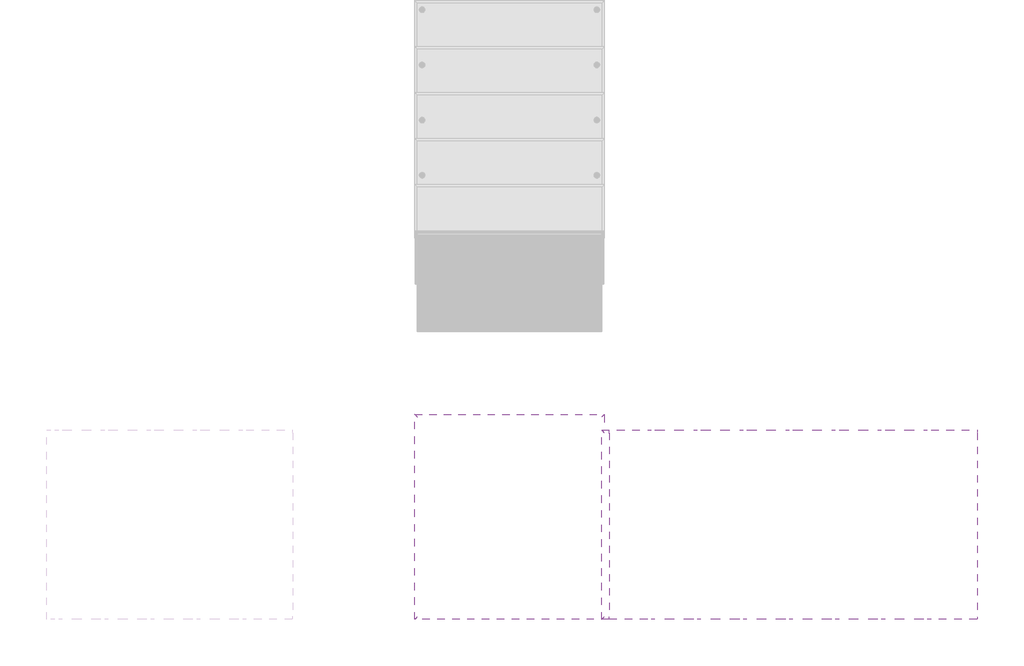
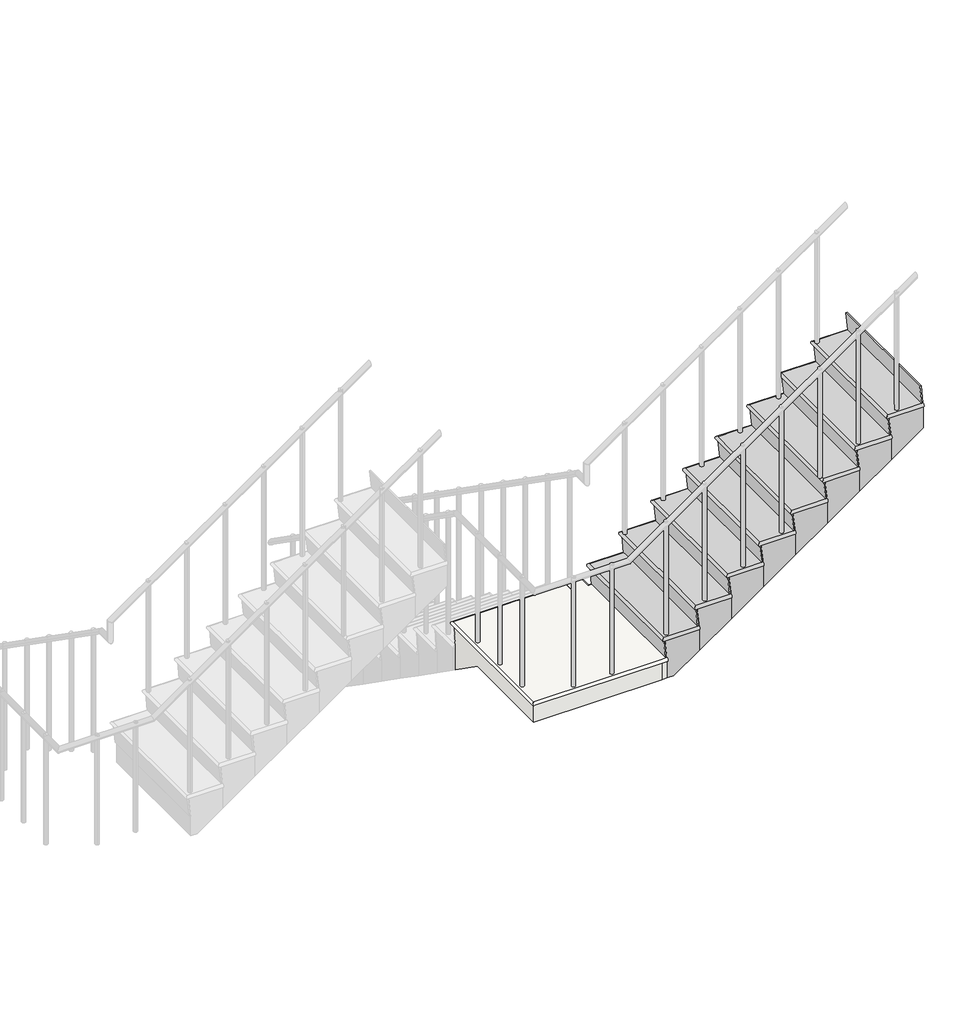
# One storey, part 2 of 6: 1 slab, 1 stair flight.
"""IFC4 building model written with IfcOpenShell, lengths in millimetres."""

import ifcopenshell
import ifcopenshell.guid

model = None  # the IFC model being written
_history = None  # IfcOwnerHistory: only IFC2X3 demands one
_inside = {}  # id of a spatial element -> (the spatial element, [elements in it])
_under = {}  # id of a project, library or spatial element -> (it, [spatial elements below it])
_declared = {}  # id of a project -> (the project, [libraries it declares])
_typed = {}  # id of a type object -> (the type object, [elements of that type])
_made_of = {}  # id of a material, layer set ... -> (it, [elements and type objects made of it])


def new_model(schema):
    """Start an empty IFC model of exactly this schema.

    Asked for "IFC4X3", IfcOpenShell would pick the latest addendum, in which some entities
    have other attributes; the version numbers below select the first issue.
    IFC2X3 requires an IfcOwnerHistory on every rooted entity: one is made here for all.
    """
    global model, _history
    if schema == "IFC4X3":
        model = ifcopenshell.file(schema_version=(4, 3, 0, 0))
    else:
        model = ifcopenshell.file(schema=schema)
    _inside.clear()
    _under.clear()
    _declared.clear()
    _typed.clear()
    _made_of.clear()
    _history = None
    if model.schema == "IFC2X3":
        org = make("IfcOrganization", Name="unknown")
        user = make(
            "IfcPersonAndOrganization",
            ThePerson=make("IfcPerson", FamilyName="unknown"),
            TheOrganization=org,
        )
        app = make(
            "IfcApplication",
            ApplicationDeveloper=org,
            Version="unknown",
            ApplicationFullName="unknown",
            ApplicationIdentifier="unknown",
        )
        _history = make(
            "IfcOwnerHistory",
            OwningUser=user,
            OwningApplication=app,
            ChangeAction="ADDED",
            CreationDate=0,
        )
    return model


def make(cls, **values):
    """One entity of the class cls with the attributes given. An attribute that is None is left unset."""
    return model.create_entity(
        cls, **{name: value for name, value in values.items() if value is not None}
    )


def rooted(cls, **values):
    """An entity with a GlobalId (a new one), such as an element, a storey or a relation."""
    return make(cls, GlobalId=ifcopenshell.guid.new(), OwnerHistory=_history, **values)


def si_unit(unit_type, name, prefix=None):
    """IfcSIUnit, for example si_unit("LENGTHUNIT", "METRE", prefix="MILLI")."""
    return make("IfcSIUnit", UnitType=unit_type, Prefix=prefix, Name=name)


def assignment(units):
    """IfcUnitAssignment: the units of a project."""
    return None if units is None else make("IfcUnitAssignment", Units=units)


def point(xyz):
    """IfcCartesianPoint."""
    return None if xyz is None else make("IfcCartesianPoint", Coordinates=xyz)


def direction(xyz):
    """IfcDirection."""
    return None if xyz is None else make("IfcDirection", DirectionRatios=xyz)


def frame(location, z_axis=None, x_axis=None):
    """IfcAxis2Placement3D, a coordinate frame: its origin and axes. An axis left out is left unset."""
    return make(
        "IfcAxis2Placement3D",
        Location=point(location),
        Axis=direction(z_axis),
        RefDirection=direction(x_axis),
    )


def origin():
    """The frame at (0, 0, 0) with its axes left unset."""
    return frame((0.0, 0.0, 0.0))


def place(relative_to, where):
    """IfcLocalPlacement: puts the frame where relative to a parent placement (None: the world)."""
    return make(
        "IfcLocalPlacement", PlacementRelTo=relative_to, RelativePlacement=where
    )


def context(
    kind, dimensions, precision=None, world=None, true_north=None, identifier=None
):
    """IfcGeometricRepresentationContext, for example the 3D "Model" context."""
    return make(
        "IfcGeometricRepresentationContext",
        ContextIdentifier=identifier,
        ContextType=kind,
        CoordinateSpaceDimension=dimensions,
        Precision=precision,
        WorldCoordinateSystem=world,
        TrueNorth=true_north,
    )


def project(units=None, contexts=None):
    """IfcProject with its units and contexts."""
    return rooted(
        "IfcProject",
        Name="project",
        RepresentationContexts=contexts,
        UnitsInContext=assignment(units),
    )


def spatial(cls, under=None, at=None, **own):
    """A site, building, storey or space (cls), placed at a placement, below another one or the project."""
    s = rooted(cls, ObjectPlacement=at, **own)
    if under is not None:
        _under.setdefault(under.id(), (under, []))[1].append(s)
    return s


def circle_curve(where, radius):
    """IfcCircle in the frame where."""
    return make("IfcCircle", Position=where, Radius=radius)


def ellipse_curve(where, semi_axis1, semi_axis2):
    """IfcEllipse in the frame where."""
    return make(
        "IfcEllipse", Position=where, SemiAxis1=semi_axis1, SemiAxis2=semi_axis2
    )


def faces_of(points, faces, orient=None, outer=None):
    """IfcFace entities. A face is a list of loops; a loop is a list of indices into points, from 0.

    orient and outer hold one flag for each loop. By default every Orientation is true, the
    first loop of a face is its IfcFaceOuterBound and the others are IfcFaceBound.
    """
    made = []
    for i, loops in enumerate(faces):
        bounds = []
        for j, loop in enumerate(loops):
            is_outer = j == 0 if outer is None else outer[i][j]
            bounds.append(
                make(
                    "IfcFaceOuterBound" if is_outer else "IfcFaceBound",
                    Bound=make("IfcPolyLoop", Polygon=[points[k] for k in loop]),
                    Orientation=True if orient is None else orient[i][j],
                )
            )
        made.append(make("IfcFace", Bounds=bounds))
    return made


def faceted_brep(points, faces, orient=None, outer=None, voids=None):
    """IfcFacetedBrep: a solid bounded by flat faces; with voids (closed shells), ...WithVoids."""
    shared = [point(p) for p in points]
    hull = make("IfcClosedShell", CfsFaces=faces_of(shared, faces, orient, outer))
    if voids is None:
        return make("IfcFacetedBrep", Outer=hull)
    return make(
        "IfcFacetedBrepWithVoids",
        Outer=hull,
        Voids=[
            make(cls, CfsFaces=faces_of(shared, fs, o, b)) for cls, fs, o, b in voids
        ],
    )


def shape(context_of_items, identifier, shape_type, items):
    """IfcShapeRepresentation: the items that make up one representation, for example the "Body"."""
    return make(
        "IfcShapeRepresentation",
        ContextOfItems=context_of_items,
        RepresentationIdentifier=identifier,
        RepresentationType=shape_type,
        Items=items,
    )


def made_of(thing, what):
    """Note that an element or type object is made of a material, layer set ...; save() writes the relation."""
    if what is not None:
        _made_of.setdefault(what.id(), (what, []))[1].append(thing)
    return thing


def element(
    cls,
    number,
    at=None,
    inside=None,
    cuts=None,
    type_object=None,
    material=None,
    context=None,
    identifier="Body",
    shape_type=None,
    held_by="IfcProductDefinitionShape",
    body=None,
    shapes=None,
    **own,
):
    """One element of the class cls, such as IfcWall. Its Tag is "e" and its number.

    at: its placement. inside: the storey or other place that contains it. cuts: it is an
    opening in that element (IfcRelVoidsElement). A single representation is given by context,
    identifier, shape_type and body (its items); several are given by shapes. held_by: the class
    of the entity that holds the representations. save() writes the other relations.
    """
    e = rooted(cls, Tag="e%d" % number, ObjectPlacement=at, **own)
    if body is not None:
        shapes = [shape(context, identifier, shape_type, body)]
    if shapes is not None:
        e.Representation = make(held_by, Representations=shapes)
    if inside is not None:
        _inside.setdefault(inside.id(), (inside, []))[1].append(e)
    if cuts is not None:
        rooted(
            "IfcRelVoidsElement", RelatingBuildingElement=cuts, RelatedOpeningElement=e
        )
    if type_object is not None:
        _typed.setdefault(type_object.id(), (type_object, []))[1].append(e)
    return made_of(e, material)


def aggregate(whole, parts):
    """IfcRelAggregates: a whole, such as a stair, and the parts it consists of."""
    return rooted("IfcRelAggregates", RelatingObject=whole, RelatedObjects=parts)


def save(model, path):
    """Write the relations noted so far, then the file.

    IfcRelAggregates (storeys below a building ...), IfcRelContainedInSpatialStructure (elements
    in a storey), IfcRelDefinesByType, IfcRelAssociatesMaterial and IfcRelDeclares: one each for
    every whole, place, type object, material and project.
    """
    for whole, parts in _under.values():
        aggregate(whole, parts)
    for where, things in _inside.values():
        rooted(
            "IfcRelContainedInSpatialStructure",
            RelatedElements=things,
            RelatingStructure=where,
        )
    for kind, things in _typed.values():
        rooted("IfcRelDefinesByType", RelatedObjects=things, RelatingType=kind)
    for what, things in _made_of.values():
        rooted("IfcRelAssociatesMaterial", RelatedObjects=things, RelatingMaterial=what)
    for by, libraries in _declared.values():
        rooted("IfcRelDeclares", RelatingContext=by, RelatedDefinitions=libraries)
    model.write(path)


def plane_surface(at):
    """IfcPlane: the flat surface through the origin of the frame at, square to its z axis."""
    return make("IfcPlane", Position=at)


def cylinder_surface(at, radius):
    """IfcCylindricalSurface: all points at the distance radius from the z axis of the frame at."""
    return make("IfcCylindricalSurface", Position=at, Radius=radius)


def advanced_brep(points, edges, surfaces, faces):
    """IfcAdvancedBrep: a solid bounded by faces that lie on surfaces and meet in shared edges.

    An edge is (start, end): straight between two places in points (the first is 0);
    or (start, end, curve); or (start, end, curve, False) where it runs against its curve.
    A face is (place in surfaces, loops), or (place, loops, False) where it looks against
    its surface's normal. A loop lists edges by number (the first is 1), with a minus sign
    where the edge is run from its end to its start. The first loop is the outer one.
    """
    corners = [point(p) for p in points]
    vertices = [make("IfcVertexPoint", VertexGeometry=c) for c in corners]
    made = []
    for start, end, *more in edges:
        made.append(
            make(
                "IfcEdgeCurve",
                EdgeStart=vertices[start],
                EdgeEnd=vertices[end],
                EdgeGeometry=more[0] if more else make("IfcPolyline", Points=[corners[start], corners[end]]),
                SameSense=more[1] if len(more) > 1 else True,
            )
        )
    hull = []
    for where, loops, *sense in faces:
        bounds = []
        for j, loop in enumerate(loops):
            ring = [make("IfcOrientedEdge", EdgeElement=made[abs(k) - 1], Orientation=k > 0) for k in loop]
            bounds.append(
                make(
                    "IfcFaceOuterBound" if j == 0 else "IfcFaceBound",
                    Bound=make("IfcEdgeLoop", EdgeList=ring),
                    Orientation=True,
                )
            )
        hull.append(make("IfcAdvancedFace", Bounds=bounds, FaceSurface=surfaces[where], SameSense=sense[0] if sense else True))
    return make("IfcAdvancedBrep", Outer=make("IfcClosedShell", CfsFaces=hull))


model = new_model("IFC4")

# Units and contexts
model_context = context("Model", 3, world=origin())
ifc_project = project(units=[si_unit("LENGTHUNIT", "METRE", prefix="MILLI")], contexts=[model_context])

# Site, building, storey
site = spatial("IfcSite", under=ifc_project)
building = spatial("IfcBuilding", under=site)
storey = spatial("IfcBuildingStorey", under=building, Name="樓層 1", Elevation=0.0)

# Slab
placement = place(None, origin())
element("IfcSlab", 1, ObjectType="150mm 厚度", at=placement, inside=storey, context=model_context, shape_type="SolidModel", body=[
    faceted_brep([(-2709.5669097, 476.8888386, 1905.0), (-1709.5669097, 476.8888386, 1905.0), (-1709.5669097, 458.7853903, 1730.0), (-2709.5669097, 458.7853903, 1730.0), (-2709.5669097, -599.0922788, 1905.0), (-1709.5669097, -599.0922788, 1905.0), (-1667.4445789, -599.0922788, 1905.0), (-1667.4445789, 400.9077212, 1905.0), (-1709.5669097, 400.9077212, 1905.0), (-2709.5669097, 158.0144684, 1905.0), (-1709.5669097, 458.7853903, 1544.4603546), (-2709.5669097, 458.7853903, 1544.4603546), (-2709.5669097, 158.0144684, 1755.0), (-2709.5669097, -599.0922788, 1755.0), (-1709.5669097, -599.0922788, 1755.0), (-1667.4445789, -599.0922788, 1755.0), (-1667.4445789, 400.9077212, 1755.0), (-1709.5669097, 400.9077212, 1755.0), (-1709.5669097, 158.0144684, 1755.0)], [[[0, 1, 2, 3]], [[4, 5, 6, 7, 8, 1, 0, 9]], [[3, 2, 10, 11]], [[0, 3, 11, 12, 13, 4, 9]], [[5, 4, 13, 14]], [[6, 5, 14, 15]], [[7, 6, 15, 16]], [[8, 7, 16, 17]], [[1, 8, 17, 18, 10, 2]], [[12, 18, 17, 16, 15, 14, 13]], [[10, 18, 12, 11]]]),
    advanced_brep(
    [(-1669.5135444, -599.0922788, 1925.0), (-1667.4445789, -599.0922788, 1905.0), (-1667.4445789, 400.9077212, 1905.0), (-1669.5135444, 400.9077212, 1925.0), (-1709.5669097, 400.9077212, 1925.0), (-1709.5669097, 485.9077212, 1925.0), (-2709.5669097, 485.9077212, 1925.0), (-2709.5669097, -599.0922788, 1925.0), (-1709.5669097, -599.0922788, 1925.0), (-1669.5135444, -599.0922788, 1905.0), (-1709.5669097, -599.0922788, 1905.0), (-2709.5669097, -599.0922788, 1905.0), (-2709.5669097, 485.9077212, 1905.0), (-1709.5669097, 485.9077212, 1905.0), (-1709.5669097, 400.9077212, 1905.0), (-1669.5135444, 400.9077212, 1905.0), (-1669.5135444, -599.0922788, 1895.0), (-2709.5669097, -599.0922788, 1895.0), (-2709.5669097, 485.9077212, 1895.0), (-1709.5669097, 485.9077212, 1895.0), (-1709.5669097, 400.9077212, 1895.0), (-1669.5135444, 400.9077212, 1895.0)],
    [
        (0, 1),
        (1, 2),
        (2, 3),
        (3, 0),
        (3, 4),
        (4, 5),
        (5, 6),
        (6, 7),
        (7, 8),
        (8, 0),
        (1, 9),
        (9, 10),
        (10, 11),
        (11, 12),
        (12, 13),
        (13, 14),
        (14, 15),
        (15, 2),
        (0, 9),
        (15, 3),
        (0, 16, circle_curve(frame((-1669.5135444, -599.0922788, 1910.0), z_axis=(1.0, 0.0, 0.0), x_axis=(0.0, 1.0, 0.0)), 15.0)),
        (16, 9),
        (7, 17, ellipse_curve(frame((-2709.5669097, -599.0922788, 1910.0), z_axis=(0.7071067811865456, -0.7071067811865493, 0.0), x_axis=(0.7071067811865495, 0.7071067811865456, 0.0)), 21.2132034, 15.0)),
        (17, 16),
        (17, 11),
        (6, 18, ellipse_curve(frame((-2709.5669097, 485.9077212, 1910.0), z_axis=(-0.707106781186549, -0.7071067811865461, 0.0), x_axis=(0.7071067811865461, -0.7071067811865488, 0.0)), 21.2132034, 15.0)),
        (18, 17),
        (18, 12),
        (5, 19, ellipse_curve(frame((-1709.5669097, 485.9077212, 1910.0), z_axis=(-0.7071067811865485, 0.7071067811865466, 0.0), x_axis=(-0.7071067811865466, -0.7071067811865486, 0.0)), 21.2132034, 15.0)),
        (19, 18),
        (19, 13),
        (4, 20, ellipse_curve(frame((-1709.5669097, 400.9077212, 1910.0), z_axis=(-0.7071067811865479, 0.7071067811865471, 0.0), x_axis=(0.7071067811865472, 0.7071067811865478, 0.0)), 21.2132034, 15.0)),
        (20, 19),
        (20, 14),
        (21, 3, circle_curve(frame((-1669.5135444, 400.9077212, 1910.0), z_axis=(1.0, 0.0, 0.0), x_axis=(0.0, -1.0, 0.0)), 15.0)),
        (15, 21),
        (21, 20),
    ],
    [
        plane_surface(frame((-1667.4445789, -599.0922788, 1905.0), z_axis=(0.9946917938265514, 0.0, 0.10289915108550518), x_axis=(0.0, 1.0, 0.0))),
        plane_surface(frame((-1709.5669097, 485.9077212, 1925.0), z_axis=(0.0, 0.0, 1.0), x_axis=(-1.0, 0.0, 0.0))),
        plane_surface(frame((-1709.5669097, 485.9077212, 1905.0), z_axis=(0.0, 0.0, -1.0), x_axis=(1.0, 0.0, 0.0))),
        plane_surface(frame((-1709.5669097, -599.0922788, 1925.0), z_axis=(0.0, -1.0, 0.0), x_axis=(0.0, 0.0, -1.0))),
        plane_surface(frame((-1669.5135444, 400.9077212, 1925.0), z_axis=(0.0, 1.0, 0.0), x_axis=(0.0, 0.0, -1.0))),
        plane_surface(frame((-1669.5135444, -599.0922788, 1925.0), z_axis=(1.0, 0.0, 0.0), x_axis=(0.0, 1.0, 0.0))),
        cylinder_surface(frame((-1669.5135444, -599.0922788, 1910.0), z_axis=(1.0, 0.0, 0.0), x_axis=(0.0, 1.0, 0.0)), 15.0),
        plane_surface(frame((-1669.5135444, -599.0922788, 1895.0), z_axis=(0.0, 1.0, 0.0), x_axis=(-1.0, 0.0, 0.0))),
        cylinder_surface(frame((-2709.5669097, -599.0922788, 1910.0), z_axis=(0.0, -1.0, 0.0), x_axis=(1.0, 0.0, 0.0)), 15.0),
        plane_surface(frame((-2709.5669097, -599.0922788, 1895.0), z_axis=(1.0, 0.0, 0.0), x_axis=(0.0, 1.0, 0.0))),
        cylinder_surface(frame((-2709.5669097, 485.9077212, 1910.0), z_axis=(-1.0, 0.0, 0.0), x_axis=(0.0, -1.0, 0.0)), 15.0),
        plane_surface(frame((-2709.5669097, 485.9077212, 1895.0), z_axis=(0.0, -1.0, 0.0), x_axis=(1.0, 0.0, 0.0))),
        cylinder_surface(frame((-1709.5669097, 485.9077212, 1910.0), z_axis=(0.0, 1.0, 0.0), x_axis=(-1.0, 0.0, 0.0)), 15.0),
        plane_surface(frame((-1709.5669097, 485.9077212, 1895.0), z_axis=(-1.0, 0.0, 0.0), x_axis=(0.0, -1.0, 0.0))),
        plane_surface(frame((-1669.5135444, 400.9077212, 1925.0), z_axis=(1.0, 0.0, 0.0), x_axis=(0.0, 1.0, 0.0))),
        cylinder_surface(frame((-1709.5669097, 400.9077212, 1910.0), z_axis=(-1.0, 0.0, 0.0), x_axis=(0.0, -1.0, 0.0)), 15.0),
        plane_surface(frame((-1709.5669097, 400.9077212, 1895.0), z_axis=(0.0, -1.0, 0.0), x_axis=(1.0, 0.0, 0.0))),
    ],
    [
        (0, [[1, 2, 3, 4]]),
        (1, [[-4, 5, 6, 7, 8, 9, 10]]),
        (2, [[-2, 11, 12, 13, 14, 15, 16, 17, 18]]),
        (3, [[-1, 19, -11]]),
        (4, [[-3, -18, 20]]),
        (5, [[21, 22, -19]]),
        (6, [[-21, -10, -9, 23, 24]]),
        (7, [[-24, 25, -13, -12, -22]]),
        (8, [[-23, -8, 26, 27]]),
        (9, [[-27, 28, -14, -25]]),
        (10, [[-26, -7, 29, 30]]),
        (11, [[-30, 31, -15, -28]]),
        (12, [[-29, -6, 32, 33]]),
        (13, [[-33, 34, -16, -31]]),
        (14, [[35, -20, 36]]),
        (15, [[-32, -5, -35, 37]]),
        (16, [[-37, -36, -17, -34]]),
    ],
),
])

# Stair flight
element("IfcStairFlight", 2, ObjectType="RC", at=placement, inside=storey, context=model_context, shape_type="SolidModel", body=[
    faceted_brep([(-1685.5480271, -599.0922788, 2080.0), (-1685.5480271, 400.9077212, 2080.0), (-1667.4445789, 400.9077212, 1905.0), (-1667.4445789, -599.0922788, 1905.0), (-1616.6736569, -599.0922788, 2080.0), (-1417.4445789, -599.0922788, 2080.0), (-1417.4445789, 400.9077212, 2080.0), (-1616.6736569, 400.9077212, 2080.0), (-1417.4445789, 400.9077212, 1894.4603546), (-1616.6736569, 400.9077212, 1755.0), (-1667.4445789, 400.9077212, 1755.0), (-1667.4445789, -599.0922788, 1755.0), (-1616.6736569, -599.0922788, 1755.0), (-1417.4445789, -599.0922788, 1894.4603546), (-1435.5480271, 400.9077212, 2255.0), (-1435.5480271, -599.0922788, 2255.0), (-1167.4445789, -599.0922788, 2255.0), (-1167.4445789, 400.9077212, 2255.0), (-1167.4445789, 400.9077212, 2069.4603546), (-1167.4445789, -599.0922788, 2069.4603546), (-1185.5480271, 400.9077212, 2430.0), (-1185.5480271, -599.0922788, 2430.0), (-917.4445789, -599.0922788, 2430.0), (-917.4445789, 400.9077212, 2430.0), (-917.4445789, 400.9077212, 2244.4603546), (-917.4445789, -599.0922788, 2244.4603546), (-935.5480271, 400.9077212, 2605.0), (-935.5480271, -599.0922788, 2605.0), (-667.4445789, -599.0922788, 2605.0), (-667.4445789, 400.9077212, 2605.0), (-667.4445789, 400.9077212, 2419.4603546), (-667.4445789, -599.0922788, 2419.4603546), (-685.5480271, 400.9077212, 2780.0), (-685.5480271, -599.0922788, 2780.0), (-417.4445789, -599.0922788, 2780.0), (-417.4445789, 400.9077212, 2780.0), (-417.4445789, 400.9077212, 2594.4603546), (-417.4445789, -599.0922788, 2594.4603546), (-435.5480271, 400.9077212, 2955.0), (-435.5480271, -599.0922788, 2955.0), (-167.4445789, -599.0922788, 2955.0), (-167.4445789, 400.9077212, 2955.0), (-167.4445789, 400.9077212, 2769.4603546), (-167.4445789, -599.0922788, 2769.4603546), (-185.5480271, 400.9077212, 3130.0), (-185.5480271, -599.0922788, 3130.0), (82.5554211, -599.0922788, 3130.0), (82.5554211, 400.9077212, 3130.0), (82.5554211, 400.9077212, 2944.4603546), (82.5554211, -599.0922788, 2944.4603546), (64.4519729, 400.9077212, 3305.0), (64.4519729, -599.0922788, 3305.0), (332.5554211, -599.0922788, 3305.0), (332.5554211, 400.9077212, 3305.0), (332.5554211, 400.9077212, 3119.4603546), (332.5554211, -599.0922788, 3119.4603546)], [[[0, 1, 2, 3]], [[1, 0, 4, 5, 6, 7]], [[2, 1, 7, 6, 8, 9, 10]], [[3, 2, 10, 11]], [[0, 3, 11, 12, 13, 5, 4]], [[14, 15, 16, 17]], [[14, 17, 18, 8, 6]], [[16, 15, 5, 13, 19]], [[15, 14, 6, 5]], [[20, 21, 22, 23]], [[20, 23, 24, 18, 17]], [[22, 21, 16, 19, 25]], [[21, 20, 17, 16]], [[26, 27, 28, 29]], [[26, 29, 30, 24, 23]], [[28, 27, 22, 25, 31]], [[27, 26, 23, 22]], [[32, 33, 34, 35]], [[32, 35, 36, 30, 29]], [[34, 33, 28, 31, 37]], [[33, 32, 29, 28]], [[38, 39, 40, 41]], [[38, 41, 42, 36, 35]], [[40, 39, 34, 37, 43]], [[39, 38, 35, 34]], [[44, 45, 46, 47]], [[44, 47, 48, 42, 41]], [[46, 45, 40, 43, 49]], [[45, 44, 41, 40]], [[50, 51, 52, 53]], [[50, 53, 54, 48, 47]], [[52, 51, 46, 49, 55]], [[53, 52, 55, 54]], [[51, 50, 47, 46]], [[12, 9, 8, 18, 24, 30, 36, 42, 48, 54, 55, 49, 43, 37, 31, 25, 19, 13]], [[9, 12, 11, 10]]]),
    advanced_brep(
    [(-1419.5135444, -599.0922788, 2100.0), (-1417.4445789, -599.0922788, 2080.0), (-1417.4445789, 400.9077212, 2080.0), (-1419.5135444, 400.9077212, 2100.0), (-1694.5669097, 400.9077212, 2100.0), (-1694.5669097, -599.0922788, 2100.0), (-1419.5135444, -599.0922788, 2080.0), (-1694.5669097, -599.0922788, 2080.0), (-1694.5669097, 400.9077212, 2080.0), (-1419.5135444, 400.9077212, 2080.0), (-1419.5135444, -599.0922788, 2070.0), (-1694.5669097, -599.0922788, 2070.0), (-1694.5669097, 400.9077212, 2070.0), (-1419.5135444, 400.9077212, 2070.0)],
    [
        (0, 1),
        (1, 2),
        (2, 3),
        (3, 0),
        (3, 4),
        (4, 5),
        (5, 0),
        (1, 6),
        (6, 7),
        (7, 8),
        (8, 9),
        (9, 2),
        (9, 3),
        (0, 6),
        (0, 10, circle_curve(frame((-1419.5135444, -599.0922788, 2085.0), z_axis=(1.0, 0.0, 0.0), x_axis=(0.0, 1.0, 0.0)), 15.0)),
        (10, 6),
        (5, 11, ellipse_curve(frame((-1694.5669097, -599.0922788, 2085.0), z_axis=(0.7071067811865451, -0.7071067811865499, 0.0), x_axis=(0.7071067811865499, 0.7071067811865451, 0.0)), 21.2132034, 15.0)),
        (11, 10),
        (11, 7),
        (4, 12, ellipse_curve(frame((-1694.5669097, 400.9077212, 2085.0), z_axis=(-0.7071067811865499, -0.707106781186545, 0.0), x_axis=(0.7071067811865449, -0.70710678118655, 0.0)), 21.2132034, 15.0)),
        (12, 11),
        (12, 8),
        (13, 3, circle_curve(frame((-1419.5135444, 400.9077212, 2085.0), z_axis=(1.0, 0.0, 0.0), x_axis=(0.0, -1.0, 0.0)), 15.0)),
        (9, 13),
        (13, 12),
    ],
    [
        plane_surface(frame((-1417.4445789, -599.0922788, 2080.0), z_axis=(0.9946917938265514, 0.0, 0.10289915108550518), x_axis=(0.0, 1.0, 0.0))),
        plane_surface(frame((-1709.5669097, 400.9077212, 2100.0), z_axis=(0.0, 0.0, 1.0), x_axis=(-1.0, 0.0, 0.0))),
        plane_surface(frame((-1709.5669097, 400.9077212, 2080.0), z_axis=(0.0, 0.0, -1.0), x_axis=(1.0, 0.0, 0.0))),
        plane_surface(frame((-1419.5135444, 400.9077212, 2100.0), z_axis=(0.0, 1.0, 0.0), x_axis=(0.0, 0.0, -1.0))),
        plane_surface(frame((-1694.5669097, -599.0922788, 2100.0), z_axis=(0.0, -1.0, 0.0), x_axis=(0.0, 0.0, -1.0))),
        plane_surface(frame((-1419.5135444, -599.0922788, 2100.0), z_axis=(1.0, 0.0, 0.0), x_axis=(0.0, 1.0, 0.0))),
        cylinder_surface(frame((-1419.5135444, -599.0922788, 2085.0), z_axis=(1.0, 0.0, 0.0), x_axis=(0.0, 1.0, 0.0)), 15.0),
        plane_surface(frame((-1419.5135444, -599.0922788, 2070.0), z_axis=(0.0, 1.0, 0.0), x_axis=(-1.0, 0.0, 0.0))),
        cylinder_surface(frame((-1694.5669097, -599.0922788, 2085.0), z_axis=(0.0, -1.0, 0.0), x_axis=(1.0, 0.0, 0.0)), 15.0),
        plane_surface(frame((-1694.5669097, -599.0922788, 2070.0), z_axis=(1.0, 0.0, 0.0), x_axis=(0.0, 1.0, 0.0))),
        plane_surface(frame((-1419.5135444, 400.9077212, 2100.0), z_axis=(1.0, 0.0, 0.0), x_axis=(0.0, 1.0, 0.0))),
        cylinder_surface(frame((-1694.5669097, 400.9077212, 2085.0), z_axis=(-1.0, 0.0, 0.0), x_axis=(0.0, -1.0, 0.0)), 15.0),
        plane_surface(frame((-1694.5669097, 400.9077212, 2070.0), z_axis=(0.0, -1.0, 0.0), x_axis=(1.0, 0.0, 0.0))),
    ],
    [
        (0, [[1, 2, 3, 4]]),
        (1, [[-4, 5, 6, 7]]),
        (2, [[-2, 8, 9, 10, 11, 12]]),
        (3, [[-3, -12, 13]]),
        (4, [[-1, 14, -8]]),
        (5, [[15, 16, -14]]),
        (6, [[-15, -7, 17, 18]]),
        (7, [[-18, 19, -9, -16]]),
        (8, [[-17, -6, 20, 21]]),
        (9, [[-21, 22, -10, -19]]),
        (10, [[23, -13, 24]]),
        (11, [[-20, -5, -23, 25]]),
        (12, [[-25, -24, -11, -22]]),
    ],
),
    faceted_brep([(-1694.5669097, -599.0922788, 2070.0), (-1679.5669097, -599.0922788, 1925.0), (-1669.5135444, -599.0922788, 1925.0), (-1684.5135444, -599.0922788, 2070.0), (-1694.5669097, 400.9077212, 2070.0), (-1684.5135444, 400.9077212, 2070.0), (-1669.5135444, 400.9077212, 1925.0), (-1679.5669097, 400.9077212, 1925.0)], [[[0, 1, 2, 3]], [[4, 5, 6, 7]], [[1, 0, 4, 7]], [[2, 1, 7, 6]], [[3, 2, 6, 5]], [[0, 3, 5, 4]]]),
    faceted_brep([(-1444.5669097, -599.0922788, 2245.0), (-1429.5669097, -599.0922788, 2100.0), (-1419.5135444, -599.0922788, 2100.0), (-1434.5135444, -599.0922788, 2245.0), (-1444.5669097, 400.9077212, 2245.0), (-1434.5135444, 400.9077212, 2245.0), (-1419.5135444, 400.9077212, 2100.0), (-1429.5669097, 400.9077212, 2100.0)], [[[0, 1, 2, 3]], [[4, 5, 6, 7]], [[1, 0, 4, 7]], [[2, 1, 7, 6]], [[3, 2, 6, 5]], [[0, 3, 5, 4]]]),
    advanced_brep(
    [(-1169.5135444, -599.0922788, 2275.0), (-1169.5135444, 400.9077212, 2275.0), (-1444.5669097, 400.9077212, 2275.0), (-1444.5669097, -599.0922788, 2275.0), (-1167.4445789, 400.9077212, 2255.0), (-1167.4445789, -599.0922788, 2255.0), (-1169.5135444, -599.0922788, 2255.0), (-1444.5669097, -599.0922788, 2255.0), (-1444.5669097, 400.9077212, 2255.0), (-1169.5135444, 400.9077212, 2255.0), (-1169.5135444, -599.0922788, 2245.0), (-1444.5669097, -599.0922788, 2245.0), (-1444.5669097, 400.9077212, 2245.0), (-1169.5135444, 400.9077212, 2245.0)],
    [
        (0, 1),
        (1, 2),
        (2, 3),
        (3, 0),
        (4, 5),
        (5, 6),
        (6, 7),
        (7, 8),
        (8, 9),
        (9, 4),
        (1, 4),
        (9, 1),
        (5, 0),
        (0, 6),
        (0, 10, circle_curve(frame((-1169.5135444, -599.0922788, 2260.0), z_axis=(1.0, 0.0, 0.0), x_axis=(0.0, 1.0, 0.0)), 15.0)),
        (10, 6),
        (3, 11, ellipse_curve(frame((-1444.5669097, -599.0922788, 2260.0), z_axis=(0.7071067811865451, -0.7071067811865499, 0.0), x_axis=(0.7071067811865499, 0.7071067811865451, 0.0)), 21.2132034, 15.0)),
        (11, 10),
        (11, 7),
        (2, 12, ellipse_curve(frame((-1444.5669097, 400.9077212, 2260.0), z_axis=(-0.7071067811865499, -0.707106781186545, 0.0), x_axis=(0.7071067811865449, -0.70710678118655, 0.0)), 21.2132034, 15.0)),
        (12, 11),
        (12, 8),
        (13, 1, circle_curve(frame((-1169.5135444, 400.9077212, 2260.0), z_axis=(1.0, 0.0, 0.0), x_axis=(0.0, -1.0, 0.0)), 15.0)),
        (9, 13),
        (13, 12),
    ],
    [
        plane_surface(frame((-1459.5669097, 400.9077212, 2275.0), z_axis=(0.0, 0.0, 1.0), x_axis=(-1.0, 0.0, 0.0))),
        plane_surface(frame((-1459.5669097, 400.9077212, 2255.0), z_axis=(0.0, 0.0, -1.0), x_axis=(1.0, 0.0, 0.0))),
        plane_surface(frame((-1169.5135444, 400.9077212, 2275.0), z_axis=(0.0, 1.0, 0.0), x_axis=(0.0, 0.0, -1.0))),
        plane_surface(frame((-1444.5669097, -599.0922788, 2275.0), z_axis=(0.0, -1.0, 0.0), x_axis=(0.0, 0.0, -1.0))),
        plane_surface(frame((-1167.4445789, -599.0922788, 2255.0), z_axis=(0.9946917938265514, 0.0, 0.10289915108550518), x_axis=(0.0, 1.0, 0.0))),
        plane_surface(frame((-1169.5135444, -599.0922788, 2275.0), z_axis=(1.0, 0.0, 0.0), x_axis=(0.0, 1.0, 0.0))),
        cylinder_surface(frame((-1169.5135444, -599.0922788, 2260.0), z_axis=(1.0, 0.0, 0.0), x_axis=(0.0, 1.0, 0.0)), 15.0),
        plane_surface(frame((-1169.5135444, -599.0922788, 2245.0), z_axis=(0.0, 1.0, 0.0), x_axis=(-1.0, 0.0, 0.0))),
        cylinder_surface(frame((-1444.5669097, -599.0922788, 2260.0), z_axis=(0.0, -1.0, 0.0), x_axis=(1.0, 0.0, 0.0)), 15.0),
        plane_surface(frame((-1444.5669097, -599.0922788, 2245.0), z_axis=(1.0, 0.0, 0.0), x_axis=(0.0, 1.0, 0.0))),
        plane_surface(frame((-1169.5135444, 400.9077212, 2275.0), z_axis=(1.0, 0.0, 0.0), x_axis=(0.0, 1.0, 0.0))),
        cylinder_surface(frame((-1444.5669097, 400.9077212, 2260.0), z_axis=(-1.0, 0.0, 0.0), x_axis=(0.0, -1.0, 0.0)), 15.0),
        plane_surface(frame((-1444.5669097, 400.9077212, 2245.0), z_axis=(0.0, -1.0, 0.0), x_axis=(1.0, 0.0, 0.0))),
    ],
    [
        (0, [[1, 2, 3, 4]]),
        (1, [[5, 6, 7, 8, 9, 10]]),
        (2, [[11, -10, 12]]),
        (3, [[13, 14, -6]]),
        (4, [[-13, -5, -11, -1]]),
        (5, [[15, 16, -14]]),
        (6, [[-15, -4, 17, 18]]),
        (7, [[-18, 19, -7, -16]]),
        (8, [[-17, -3, 20, 21]]),
        (9, [[-21, 22, -8, -19]]),
        (10, [[23, -12, 24]]),
        (11, [[-20, -2, -23, 25]]),
        (12, [[-25, -24, -9, -22]]),
    ],
),
    faceted_brep([(-1194.5669097, -599.0922788, 2420.0), (-1179.5669097, -599.0922788, 2275.0), (-1169.5135444, -599.0922788, 2275.0), (-1184.5135444, -599.0922788, 2420.0), (-1194.5669097, 400.9077212, 2420.0), (-1184.5135444, 400.9077212, 2420.0), (-1169.5135444, 400.9077212, 2275.0), (-1179.5669097, 400.9077212, 2275.0)], [[[0, 1, 2, 3]], [[4, 5, 6, 7]], [[1, 0, 4, 7]], [[2, 1, 7, 6]], [[3, 2, 6, 5]], [[0, 3, 5, 4]]]),
    advanced_brep(
    [(-919.5135444, -599.0922788, 2450.0), (-919.5135444, 400.9077212, 2450.0), (-1194.5669097, 400.9077212, 2450.0), (-1194.5669097, -599.0922788, 2450.0), (-917.4445789, 400.9077212, 2430.0), (-917.4445789, -599.0922788, 2430.0), (-919.5135444, -599.0922788, 2430.0), (-1194.5669097, -599.0922788, 2430.0), (-1194.5669097, 400.9077212, 2430.0), (-919.5135444, 400.9077212, 2430.0), (-919.5135444, -599.0922788, 2420.0), (-1194.5669097, -599.0922788, 2420.0), (-1194.5669097, 400.9077212, 2420.0), (-919.5135444, 400.9077212, 2420.0)],
    [
        (0, 1),
        (1, 2),
        (2, 3),
        (3, 0),
        (4, 5),
        (5, 6),
        (6, 7),
        (7, 8),
        (8, 9),
        (9, 4),
        (1, 4),
        (9, 1),
        (5, 0),
        (0, 6),
        (0, 10, circle_curve(frame((-919.5135444, -599.0922788, 2435.0), z_axis=(1.0, 0.0, 0.0), x_axis=(0.0, 1.0, 0.0)), 15.0)),
        (10, 6),
        (3, 11, ellipse_curve(frame((-1194.5669097, -599.0922788, 2435.0), z_axis=(0.7071067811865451, -0.7071067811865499, 0.0), x_axis=(0.7071067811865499, 0.7071067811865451, 0.0)), 21.2132034, 15.0)),
        (11, 10),
        (11, 7),
        (2, 12, ellipse_curve(frame((-1194.5669097, 400.9077212, 2435.0), z_axis=(-0.7071067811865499, -0.707106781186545, 0.0), x_axis=(0.7071067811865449, -0.70710678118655, 0.0)), 21.2132034, 15.0)),
        (12, 11),
        (12, 8),
        (13, 1, circle_curve(frame((-919.5135444, 400.9077212, 2435.0), z_axis=(1.0, 0.0, 0.0), x_axis=(0.0, -1.0, 0.0)), 15.0)),
        (9, 13),
        (13, 12),
    ],
    [
        plane_surface(frame((-1209.5669097, 400.9077212, 2450.0), z_axis=(0.0, 0.0, 1.0), x_axis=(-1.0, 0.0, 0.0))),
        plane_surface(frame((-1209.5669097, 400.9077212, 2430.0), z_axis=(0.0, 0.0, -1.0), x_axis=(1.0, 0.0, 0.0))),
        plane_surface(frame((-919.5135444, 400.9077212, 2450.0), z_axis=(0.0, 1.0, 0.0), x_axis=(0.0, 0.0, -1.0))),
        plane_surface(frame((-1194.5669097, -599.0922788, 2450.0), z_axis=(0.0, -1.0, 0.0), x_axis=(0.0, 0.0, -1.0))),
        plane_surface(frame((-917.4445789, -599.0922788, 2430.0), z_axis=(0.9946917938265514, 0.0, 0.10289915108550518), x_axis=(0.0, 1.0, 0.0))),
        plane_surface(frame((-919.5135444, -599.0922788, 2450.0), z_axis=(1.0, 0.0, 0.0), x_axis=(0.0, 1.0, 0.0))),
        cylinder_surface(frame((-919.5135444, -599.0922788, 2435.0), z_axis=(1.0, 0.0, 0.0), x_axis=(0.0, 1.0, 0.0)), 15.0),
        plane_surface(frame((-919.5135444, -599.0922788, 2420.0), z_axis=(0.0, 1.0, 0.0), x_axis=(-1.0, 0.0, 0.0))),
        cylinder_surface(frame((-1194.5669097, -599.0922788, 2435.0), z_axis=(0.0, -1.0, 0.0), x_axis=(1.0, 0.0, 0.0)), 15.0),
        plane_surface(frame((-1194.5669097, -599.0922788, 2420.0), z_axis=(1.0, 0.0, 0.0), x_axis=(0.0, 1.0, 0.0))),
        plane_surface(frame((-919.5135444, 400.9077212, 2450.0), z_axis=(1.0, 0.0, 0.0), x_axis=(0.0, 1.0, 0.0))),
        cylinder_surface(frame((-1194.5669097, 400.9077212, 2435.0), z_axis=(-1.0, 0.0, 0.0), x_axis=(0.0, -1.0, 0.0)), 15.0),
        plane_surface(frame((-1194.5669097, 400.9077212, 2420.0), z_axis=(0.0, -1.0, 0.0), x_axis=(1.0, 0.0, 0.0))),
    ],
    [
        (0, [[1, 2, 3, 4]]),
        (1, [[5, 6, 7, 8, 9, 10]]),
        (2, [[11, -10, 12]]),
        (3, [[13, 14, -6]]),
        (4, [[-13, -5, -11, -1]]),
        (5, [[15, 16, -14]]),
        (6, [[-15, -4, 17, 18]]),
        (7, [[-18, 19, -7, -16]]),
        (8, [[-17, -3, 20, 21]]),
        (9, [[-21, 22, -8, -19]]),
        (10, [[23, -12, 24]]),
        (11, [[-20, -2, -23, 25]]),
        (12, [[-25, -24, -9, -22]]),
    ],
),
    faceted_brep([(-944.5669097, -599.0922788, 2595.0), (-929.5669097, -599.0922788, 2450.0), (-919.5135444, -599.0922788, 2450.0), (-934.5135444, -599.0922788, 2595.0), (-944.5669097, 400.9077212, 2595.0), (-934.5135444, 400.9077212, 2595.0), (-919.5135444, 400.9077212, 2450.0), (-929.5669097, 400.9077212, 2450.0)], [[[0, 1, 2, 3]], [[4, 5, 6, 7]], [[1, 0, 4, 7]], [[2, 1, 7, 6]], [[3, 2, 6, 5]], [[0, 3, 5, 4]]]),
    advanced_brep(
    [(-669.5135444, -599.0922788, 2625.0), (-669.5135444, 400.9077212, 2625.0), (-944.5669097, 400.9077212, 2625.0), (-944.5669097, -599.0922788, 2625.0), (-667.4445789, 400.9077212, 2605.0), (-667.4445789, -599.0922788, 2605.0), (-669.5135444, -599.0922788, 2605.0), (-944.5669097, -599.0922788, 2605.0), (-944.5669097, 400.9077212, 2605.0), (-669.5135444, 400.9077212, 2605.0), (-669.5135444, -599.0922788, 2595.0), (-944.5669097, -599.0922788, 2595.0), (-944.5669097, 400.9077212, 2595.0), (-669.5135444, 400.9077212, 2595.0)],
    [
        (0, 1),
        (1, 2),
        (2, 3),
        (3, 0),
        (4, 5),
        (5, 6),
        (6, 7),
        (7, 8),
        (8, 9),
        (9, 4),
        (1, 4),
        (9, 1),
        (5, 0),
        (0, 6),
        (0, 10, circle_curve(frame((-669.5135444, -599.0922788, 2610.0), z_axis=(1.0, 0.0, 0.0), x_axis=(0.0, 1.0, 0.0)), 15.0)),
        (10, 6),
        (3, 11, ellipse_curve(frame((-944.5669097, -599.0922788, 2610.0), z_axis=(0.7071067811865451, -0.7071067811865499, 0.0), x_axis=(0.7071067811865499, 0.7071067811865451, 0.0)), 21.2132034, 15.0)),
        (11, 10),
        (11, 7),
        (2, 12, ellipse_curve(frame((-944.5669097, 400.9077212, 2610.0), z_axis=(-0.7071067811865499, -0.707106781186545, 0.0), x_axis=(0.7071067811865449, -0.70710678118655, 0.0)), 21.2132034, 15.0)),
        (12, 11),
        (12, 8),
        (13, 1, circle_curve(frame((-669.5135444, 400.9077212, 2610.0), z_axis=(1.0, 0.0, 0.0), x_axis=(0.0, -1.0, 0.0)), 15.0)),
        (9, 13),
        (13, 12),
    ],
    [
        plane_surface(frame((-959.5669097, 400.9077212, 2625.0), z_axis=(0.0, 0.0, 1.0), x_axis=(-1.0, 0.0, 0.0))),
        plane_surface(frame((-959.5669097, 400.9077212, 2605.0), z_axis=(0.0, 0.0, -1.0), x_axis=(1.0, 0.0, 0.0))),
        plane_surface(frame((-669.5135444, 400.9077212, 2625.0), z_axis=(0.0, 1.0, 0.0), x_axis=(0.0, 0.0, -1.0))),
        plane_surface(frame((-944.5669097, -599.0922788, 2625.0), z_axis=(0.0, -1.0, 0.0), x_axis=(0.0, 0.0, -1.0))),
        plane_surface(frame((-667.4445789, -599.0922788, 2605.0), z_axis=(0.9946917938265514, 0.0, 0.10289915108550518), x_axis=(0.0, 1.0, 0.0))),
        plane_surface(frame((-669.5135444, -599.0922788, 2625.0), z_axis=(1.0, 0.0, 0.0), x_axis=(0.0, 1.0, 0.0))),
        cylinder_surface(frame((-669.5135444, -599.0922788, 2610.0), z_axis=(1.0, 0.0, 0.0), x_axis=(0.0, 1.0, 0.0)), 15.0),
        plane_surface(frame((-669.5135444, -599.0922788, 2595.0), z_axis=(0.0, 1.0, 0.0), x_axis=(-1.0, 0.0, 0.0))),
        cylinder_surface(frame((-944.5669097, -599.0922788, 2610.0), z_axis=(0.0, -1.0, 0.0), x_axis=(1.0, 0.0, 0.0)), 15.0),
        plane_surface(frame((-944.5669097, -599.0922788, 2595.0), z_axis=(1.0, 0.0, 0.0), x_axis=(0.0, 1.0, 0.0))),
        plane_surface(frame((-669.5135444, 400.9077212, 2625.0), z_axis=(1.0, 0.0, 0.0), x_axis=(0.0, 1.0, 0.0))),
        cylinder_surface(frame((-944.5669097, 400.9077212, 2610.0), z_axis=(-1.0, 0.0, 0.0), x_axis=(0.0, -1.0, 0.0)), 15.0),
        plane_surface(frame((-944.5669097, 400.9077212, 2595.0), z_axis=(0.0, -1.0, 0.0), x_axis=(1.0, 0.0, 0.0))),
    ],
    [
        (0, [[1, 2, 3, 4]]),
        (1, [[5, 6, 7, 8, 9, 10]]),
        (2, [[11, -10, 12]]),
        (3, [[13, 14, -6]]),
        (4, [[-13, -5, -11, -1]]),
        (5, [[15, 16, -14]]),
        (6, [[-15, -4, 17, 18]]),
        (7, [[-18, 19, -7, -16]]),
        (8, [[-17, -3, 20, 21]]),
        (9, [[-21, 22, -8, -19]]),
        (10, [[23, -12, 24]]),
        (11, [[-20, -2, -23, 25]]),
        (12, [[-25, -24, -9, -22]]),
    ],
),
    faceted_brep([(-694.5669097, -599.0922788, 2770.0), (-679.5669097, -599.0922788, 2625.0), (-669.5135444, -599.0922788, 2625.0), (-684.5135444, -599.0922788, 2770.0), (-694.5669097, 400.9077212, 2770.0), (-684.5135444, 400.9077212, 2770.0), (-669.5135444, 400.9077212, 2625.0), (-679.5669097, 400.9077212, 2625.0)], [[[0, 1, 2, 3]], [[4, 5, 6, 7]], [[1, 0, 4, 7]], [[2, 1, 7, 6]], [[3, 2, 6, 5]], [[0, 3, 5, 4]]]),
    advanced_brep(
    [(-419.5135444, -599.0922788, 2800.0), (-419.5135444, 400.9077212, 2800.0), (-694.5669097, 400.9077212, 2800.0), (-694.5669097, -599.0922788, 2800.0), (-417.4445789, 400.9077212, 2780.0), (-417.4445789, -599.0922788, 2780.0), (-419.5135444, -599.0922788, 2780.0), (-694.5669097, -599.0922788, 2780.0), (-694.5669097, 400.9077212, 2780.0), (-419.5135444, 400.9077212, 2780.0), (-419.5135444, -599.0922788, 2770.0), (-694.5669097, -599.0922788, 2770.0), (-694.5669097, 400.9077212, 2770.0), (-419.5135444, 400.9077212, 2770.0)],
    [
        (0, 1),
        (1, 2),
        (2, 3),
        (3, 0),
        (4, 5),
        (5, 6),
        (6, 7),
        (7, 8),
        (8, 9),
        (9, 4),
        (1, 4),
        (9, 1),
        (5, 0),
        (0, 6),
        (0, 10, circle_curve(frame((-419.5135444, -599.0922788, 2785.0), z_axis=(1.0, 0.0, 0.0), x_axis=(0.0, 1.0, 0.0)), 15.0)),
        (10, 6),
        (3, 11, ellipse_curve(frame((-694.5669097, -599.0922788, 2785.0), z_axis=(0.7071067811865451, -0.7071067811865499, 0.0), x_axis=(0.7071067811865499, 0.7071067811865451, 0.0)), 21.2132034, 15.0)),
        (11, 10),
        (11, 7),
        (2, 12, ellipse_curve(frame((-694.5669097, 400.9077212, 2785.0), z_axis=(-0.7071067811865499, -0.707106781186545, 0.0), x_axis=(0.7071067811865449, -0.70710678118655, 0.0)), 21.2132034, 15.0)),
        (12, 11),
        (12, 8),
        (13, 1, circle_curve(frame((-419.5135444, 400.9077212, 2785.0), z_axis=(1.0, 0.0, 0.0), x_axis=(0.0, -1.0, 0.0)), 15.0)),
        (9, 13),
        (13, 12),
    ],
    [
        plane_surface(frame((-709.5669097, 400.9077212, 2800.0), z_axis=(0.0, 0.0, 1.0), x_axis=(-1.0, 0.0, 0.0))),
        plane_surface(frame((-709.5669097, 400.9077212, 2780.0), z_axis=(0.0, 0.0, -1.0), x_axis=(1.0, 0.0, 0.0))),
        plane_surface(frame((-419.5135444, 400.9077212, 2800.0), z_axis=(0.0, 1.0, 0.0), x_axis=(0.0, 0.0, -1.0))),
        plane_surface(frame((-694.5669097, -599.0922788, 2800.0), z_axis=(0.0, -1.0, 0.0), x_axis=(0.0, 0.0, -1.0))),
        plane_surface(frame((-417.4445789, -599.0922788, 2780.0), z_axis=(0.9946917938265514, 0.0, 0.10289915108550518), x_axis=(0.0, 1.0, 0.0))),
        plane_surface(frame((-419.5135444, -599.0922788, 2800.0), z_axis=(1.0, 0.0, 0.0), x_axis=(0.0, 1.0, 0.0))),
        cylinder_surface(frame((-419.5135444, -599.0922788, 2785.0), z_axis=(1.0, 0.0, 0.0), x_axis=(0.0, 1.0, 0.0)), 15.0),
        plane_surface(frame((-419.5135444, -599.0922788, 2770.0), z_axis=(0.0, 1.0, 0.0), x_axis=(-1.0, 0.0, 0.0))),
        cylinder_surface(frame((-694.5669097, -599.0922788, 2785.0), z_axis=(0.0, -1.0, 0.0), x_axis=(1.0, 0.0, 0.0)), 15.0),
        plane_surface(frame((-694.5669097, -599.0922788, 2770.0), z_axis=(1.0, 0.0, 0.0), x_axis=(0.0, 1.0, 0.0))),
        plane_surface(frame((-419.5135444, 400.9077212, 2800.0), z_axis=(1.0, 0.0, 0.0), x_axis=(0.0, 1.0, 0.0))),
        cylinder_surface(frame((-694.5669097, 400.9077212, 2785.0), z_axis=(-1.0, 0.0, 0.0), x_axis=(0.0, -1.0, 0.0)), 15.0),
        plane_surface(frame((-694.5669097, 400.9077212, 2770.0), z_axis=(0.0, -1.0, 0.0), x_axis=(1.0, 0.0, 0.0))),
    ],
    [
        (0, [[1, 2, 3, 4]]),
        (1, [[5, 6, 7, 8, 9, 10]]),
        (2, [[11, -10, 12]]),
        (3, [[13, 14, -6]]),
        (4, [[-13, -5, -11, -1]]),
        (5, [[15, 16, -14]]),
        (6, [[-15, -4, 17, 18]]),
        (7, [[-18, 19, -7, -16]]),
        (8, [[-17, -3, 20, 21]]),
        (9, [[-21, 22, -8, -19]]),
        (10, [[23, -12, 24]]),
        (11, [[-20, -2, -23, 25]]),
        (12, [[-25, -24, -9, -22]]),
    ],
),
    faceted_brep([(-444.5669097, -599.0922788, 2945.0), (-429.5669097, -599.0922788, 2800.0), (-419.5135444, -599.0922788, 2800.0), (-434.5135444, -599.0922788, 2945.0), (-444.5669097, 400.9077212, 2945.0), (-434.5135444, 400.9077212, 2945.0), (-419.5135444, 400.9077212, 2800.0), (-429.5669097, 400.9077212, 2800.0)], [[[0, 1, 2, 3]], [[4, 5, 6, 7]], [[1, 0, 4, 7]], [[2, 1, 7, 6]], [[3, 2, 6, 5]], [[0, 3, 5, 4]]]),
    advanced_brep(
    [(-169.5135444, -599.0922788, 2975.0), (-169.5135444, 400.9077212, 2975.0), (-444.5669097, 400.9077212, 2975.0), (-444.5669097, -599.0922788, 2975.0), (-167.4445789, 400.9077212, 2955.0), (-167.4445789, -599.0922788, 2955.0), (-169.5135444, -599.0922788, 2955.0), (-444.5669097, -599.0922788, 2955.0), (-444.5669097, 400.9077212, 2955.0), (-169.5135444, 400.9077212, 2955.0), (-169.5135444, -599.0922788, 2945.0), (-444.5669097, -599.0922788, 2945.0), (-444.5669097, 400.9077212, 2945.0), (-169.5135444, 400.9077212, 2945.0)],
    [
        (0, 1),
        (1, 2),
        (2, 3),
        (3, 0),
        (4, 5),
        (5, 6),
        (6, 7),
        (7, 8),
        (8, 9),
        (9, 4),
        (1, 4),
        (9, 1),
        (5, 0),
        (0, 6),
        (0, 10, circle_curve(frame((-169.5135444, -599.0922788, 2960.0), z_axis=(1.0, 0.0, 0.0), x_axis=(0.0, 1.0, 0.0)), 15.0)),
        (10, 6),
        (3, 11, ellipse_curve(frame((-444.5669097, -599.0922788, 2960.0), z_axis=(0.7071067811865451, -0.7071067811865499, 0.0), x_axis=(0.7071067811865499, 0.7071067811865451, 0.0)), 21.2132034, 15.0)),
        (11, 10),
        (11, 7),
        (2, 12, ellipse_curve(frame((-444.5669097, 400.9077212, 2960.0), z_axis=(-0.7071067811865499, -0.707106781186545, 0.0), x_axis=(0.7071067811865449, -0.70710678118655, 0.0)), 21.2132034, 15.0)),
        (12, 11),
        (12, 8),
        (13, 1, circle_curve(frame((-169.5135444, 400.9077212, 2960.0), z_axis=(1.0, 0.0, 0.0), x_axis=(0.0, -1.0, 0.0)), 15.0)),
        (9, 13),
        (13, 12),
    ],
    [
        plane_surface(frame((-459.5669097, 400.9077212, 2975.0), z_axis=(0.0, 0.0, 1.0), x_axis=(-1.0, 0.0, 0.0))),
        plane_surface(frame((-459.5669097, 400.9077212, 2955.0), z_axis=(0.0, 0.0, -1.0), x_axis=(1.0, 0.0, 0.0))),
        plane_surface(frame((-169.5135444, 400.9077212, 2975.0), z_axis=(0.0, 1.0, 0.0), x_axis=(0.0, 0.0, -1.0))),
        plane_surface(frame((-444.5669097, -599.0922788, 2975.0), z_axis=(0.0, -1.0, 0.0), x_axis=(0.0, 0.0, -1.0))),
        plane_surface(frame((-167.4445789, -599.0922788, 2955.0), z_axis=(0.9946917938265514, 0.0, 0.10289915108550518), x_axis=(0.0, 1.0, 0.0))),
        plane_surface(frame((-169.5135444, -599.0922788, 2975.0), z_axis=(1.0, 0.0, 0.0), x_axis=(0.0, 1.0, 0.0))),
        cylinder_surface(frame((-169.5135444, -599.0922788, 2960.0), z_axis=(1.0, 0.0, 0.0), x_axis=(0.0, 1.0, 0.0)), 15.0),
        plane_surface(frame((-169.5135444, -599.0922788, 2945.0), z_axis=(0.0, 1.0, 0.0), x_axis=(-1.0, 0.0, 0.0))),
        cylinder_surface(frame((-444.5669097, -599.0922788, 2960.0), z_axis=(0.0, -1.0, 0.0), x_axis=(1.0, 0.0, 0.0)), 15.0),
        plane_surface(frame((-444.5669097, -599.0922788, 2945.0), z_axis=(1.0, 0.0, 0.0), x_axis=(0.0, 1.0, 0.0))),
        plane_surface(frame((-169.5135444, 400.9077212, 2975.0), z_axis=(1.0, 0.0, 0.0), x_axis=(0.0, 1.0, 0.0))),
        cylinder_surface(frame((-444.5669097, 400.9077212, 2960.0), z_axis=(-1.0, 0.0, 0.0), x_axis=(0.0, -1.0, 0.0)), 15.0),
        plane_surface(frame((-444.5669097, 400.9077212, 2945.0), z_axis=(0.0, -1.0, 0.0), x_axis=(1.0, 0.0, 0.0))),
    ],
    [
        (0, [[1, 2, 3, 4]]),
        (1, [[5, 6, 7, 8, 9, 10]]),
        (2, [[11, -10, 12]]),
        (3, [[13, 14, -6]]),
        (4, [[-13, -5, -11, -1]]),
        (5, [[15, 16, -14]]),
        (6, [[-15, -4, 17, 18]]),
        (7, [[-18, 19, -7, -16]]),
        (8, [[-17, -3, 20, 21]]),
        (9, [[-21, 22, -8, -19]]),
        (10, [[23, -12, 24]]),
        (11, [[-20, -2, -23, 25]]),
        (12, [[-25, -24, -9, -22]]),
    ],
),
    faceted_brep([(-194.5669097, -599.0922788, 3120.0), (-179.5669097, -599.0922788, 2975.0), (-169.5135444, -599.0922788, 2975.0), (-184.5135444, -599.0922788, 3120.0), (-194.5669097, 400.9077212, 3120.0), (-184.5135444, 400.9077212, 3120.0), (-169.5135444, 400.9077212, 2975.0), (-179.5669097, 400.9077212, 2975.0)], [[[0, 1, 2, 3]], [[4, 5, 6, 7]], [[1, 0, 4, 7]], [[2, 1, 7, 6]], [[3, 2, 6, 5]], [[0, 3, 5, 4]]]),
    advanced_brep(
    [(80.4864556, -599.0922788, 3150.0), (80.4864556, 400.9077212, 3150.0), (-194.5669097, 400.9077212, 3150.0), (-194.5669097, -599.0922788, 3150.0), (82.5554211, 400.9077212, 3130.0), (82.5554211, -599.0922788, 3130.0), (80.4864556, -599.0922788, 3130.0), (-194.5669097, -599.0922788, 3130.0), (-194.5669097, 400.9077212, 3130.0), (80.4864556, 400.9077212, 3130.0), (80.4864556, -599.0922788, 3120.0), (-194.5669097, -599.0922788, 3120.0), (-194.5669097, 400.9077212, 3120.0), (80.4864556, 400.9077212, 3120.0)],
    [
        (0, 1),
        (1, 2),
        (2, 3),
        (3, 0),
        (4, 5),
        (5, 6),
        (6, 7),
        (7, 8),
        (8, 9),
        (9, 4),
        (1, 4),
        (9, 1),
        (5, 0),
        (0, 6),
        (0, 10, circle_curve(frame((80.4864556, -599.0922788, 3135.0), z_axis=(1.0, 0.0, 0.0), x_axis=(0.0, 1.0, 0.0)), 15.0)),
        (10, 6),
        (3, 11, ellipse_curve(frame((-194.5669097, -599.0922788, 3135.0), z_axis=(0.7071067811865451, -0.7071067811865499, 0.0), x_axis=(0.7071067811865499, 0.7071067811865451, 0.0)), 21.2132034, 15.0)),
        (11, 10),
        (11, 7),
        (2, 12, ellipse_curve(frame((-194.5669097, 400.9077212, 3135.0), z_axis=(-0.7071067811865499, -0.707106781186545, 0.0), x_axis=(0.7071067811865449, -0.70710678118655, 0.0)), 21.2132034, 15.0)),
        (12, 11),
        (12, 8),
        (13, 1, circle_curve(frame((80.4864556, 400.9077212, 3135.0), z_axis=(1.0, 0.0, 0.0), x_axis=(0.0, -1.0, 0.0)), 15.0)),
        (9, 13),
        (13, 12),
    ],
    [
        plane_surface(frame((-209.5669097, 400.9077212, 3150.0), z_axis=(0.0, 0.0, 1.0), x_axis=(-1.0, 0.0, 0.0))),
        plane_surface(frame((-209.5669097, 400.9077212, 3130.0), z_axis=(0.0, 0.0, -1.0), x_axis=(1.0, 0.0, 0.0))),
        plane_surface(frame((80.4864556, 400.9077212, 3150.0), z_axis=(0.0, 1.0, 0.0), x_axis=(0.0, 0.0, -1.0))),
        plane_surface(frame((-194.5669097, -599.0922788, 3150.0), z_axis=(0.0, -1.0, 0.0), x_axis=(0.0, 0.0, -1.0))),
        plane_surface(frame((82.5554211, -599.0922788, 3130.0), z_axis=(0.9946917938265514, 0.0, 0.10289915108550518), x_axis=(0.0, 1.0, 0.0))),
        plane_surface(frame((80.4864556, -599.0922788, 3150.0), z_axis=(1.0, 0.0, 0.0), x_axis=(0.0, 1.0, 0.0))),
        cylinder_surface(frame((80.4864556, -599.0922788, 3135.0), z_axis=(1.0, 0.0, 0.0), x_axis=(0.0, 1.0, 0.0)), 15.0),
        plane_surface(frame((80.4864556, -599.0922788, 3120.0), z_axis=(0.0, 1.0, 0.0), x_axis=(-1.0, 0.0, 0.0))),
        cylinder_surface(frame((-194.5669097, -599.0922788, 3135.0), z_axis=(0.0, -1.0, 0.0), x_axis=(1.0, 0.0, 0.0)), 15.0),
        plane_surface(frame((-194.5669097, -599.0922788, 3120.0), z_axis=(1.0, 0.0, 0.0), x_axis=(0.0, 1.0, 0.0))),
        plane_surface(frame((80.4864556, 400.9077212, 3150.0), z_axis=(1.0, 0.0, 0.0), x_axis=(0.0, 1.0, 0.0))),
        cylinder_surface(frame((-194.5669097, 400.9077212, 3135.0), z_axis=(-1.0, 0.0, 0.0), x_axis=(0.0, -1.0, 0.0)), 15.0),
        plane_surface(frame((-194.5669097, 400.9077212, 3120.0), z_axis=(0.0, -1.0, 0.0), x_axis=(1.0, 0.0, 0.0))),
    ],
    [
        (0, [[1, 2, 3, 4]]),
        (1, [[5, 6, 7, 8, 9, 10]]),
        (2, [[11, -10, 12]]),
        (3, [[13, 14, -6]]),
        (4, [[-13, -5, -11, -1]]),
        (5, [[15, 16, -14]]),
        (6, [[-15, -4, 17, 18]]),
        (7, [[-18, 19, -7, -16]]),
        (8, [[-17, -3, 20, 21]]),
        (9, [[-21, 22, -8, -19]]),
        (10, [[23, -12, 24]]),
        (11, [[-20, -2, -23, 25]]),
        (12, [[-25, -24, -9, -22]]),
    ],
),
    faceted_brep([(55.4330903, -599.0922788, 3295.0), (70.4330903, -599.0922788, 3150.0), (80.4864556, -599.0922788, 3150.0), (65.4864556, -599.0922788, 3295.0), (55.4330903, 400.9077212, 3295.0), (65.4864556, 400.9077212, 3295.0), (80.4864556, 400.9077212, 3150.0), (70.4330903, 400.9077212, 3150.0)], [[[0, 1, 2, 3]], [[4, 5, 6, 7]], [[1, 0, 4, 7]], [[2, 1, 7, 6]], [[3, 2, 6, 5]], [[0, 3, 5, 4]]]),
    faceted_brep([(305.4330903, -599.0922788, 3470.0), (320.4330903, -599.0922788, 3325.0), (330.4864556, -599.0922788, 3325.0), (315.4864556, -599.0922788, 3470.0), (305.4330903, 400.9077212, 3470.0), (315.4864556, 400.9077212, 3470.0), (330.4864556, 400.9077212, 3325.0), (320.4330903, 400.9077212, 3325.0)], [[[0, 1, 2, 3]], [[4, 5, 6, 7]], [[1, 0, 4, 7]], [[2, 1, 7, 6]], [[3, 2, 6, 5]], [[0, 3, 5, 4]]]),
    advanced_brep(
    [(330.4864556, -599.0922788, 3325.0), (330.4864556, 400.9077212, 3325.0), (55.4330903, 400.9077212, 3325.0), (55.4330903, -599.0922788, 3325.0), (332.5554211, 400.9077212, 3305.0), (332.5554211, -599.0922788, 3305.0), (330.4864556, -599.0922788, 3305.0), (55.4330903, -599.0922788, 3305.0), (55.4330903, 400.9077212, 3305.0), (330.4864556, 400.9077212, 3305.0), (330.4864556, -599.0922788, 3295.0), (55.4330903, -599.0922788, 3295.0), (55.4330903, 400.9077212, 3295.0), (330.4864556, 400.9077212, 3295.0)],
    [
        (0, 1),
        (1, 2),
        (2, 3),
        (3, 0),
        (4, 5),
        (5, 6),
        (6, 7),
        (7, 8),
        (8, 9),
        (9, 4),
        (1, 4),
        (9, 1),
        (5, 0),
        (0, 6),
        (0, 10, circle_curve(frame((330.4864556, -599.0922788, 3310.0), z_axis=(1.0, 0.0, 0.0), x_axis=(0.0, 1.0, 0.0)), 15.0)),
        (10, 6),
        (3, 11, ellipse_curve(frame((55.4330903, -599.0922788, 3310.0), z_axis=(0.7071067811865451, -0.7071067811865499, 0.0), x_axis=(0.7071067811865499, 0.7071067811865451, 0.0)), 21.2132034, 15.0)),
        (11, 10),
        (11, 7),
        (2, 12, ellipse_curve(frame((55.4330903, 400.9077212, 3310.0), z_axis=(-0.7071067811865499, -0.707106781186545, 0.0), x_axis=(0.7071067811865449, -0.70710678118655, 0.0)), 21.2132034, 15.0)),
        (12, 11),
        (12, 8),
        (13, 1, circle_curve(frame((330.4864556, 400.9077212, 3310.0), z_axis=(1.0, 0.0, 0.0), x_axis=(0.0, -1.0, 0.0)), 15.0)),
        (9, 13),
        (13, 12),
    ],
    [
        plane_surface(frame((40.4330903, 400.9077212, 3325.0), z_axis=(0.0, 0.0, 1.0), x_axis=(-1.0, 0.0, 0.0))),
        plane_surface(frame((40.4330903, 400.9077212, 3305.0), z_axis=(0.0, 0.0, -1.0), x_axis=(1.0, 0.0, 0.0))),
        plane_surface(frame((330.4864556, 400.9077212, 3325.0), z_axis=(0.0, 1.0, 0.0), x_axis=(0.0, 0.0, -1.0))),
        plane_surface(frame((55.4330903, -599.0922788, 3325.0), z_axis=(0.0, -1.0, 0.0), x_axis=(0.0, 0.0, -1.0))),
        plane_surface(frame((332.5554211, -599.0922788, 3305.0), z_axis=(0.9946917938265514, 0.0, 0.10289915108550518), x_axis=(0.0, 1.0, 0.0))),
        plane_surface(frame((330.4864556, -599.0922788, 3325.0), z_axis=(1.0, 0.0, 0.0), x_axis=(0.0, 1.0, 0.0))),
        cylinder_surface(frame((330.4864556, -599.0922788, 3310.0), z_axis=(1.0, 0.0, 0.0), x_axis=(0.0, 1.0, 0.0)), 15.0),
        plane_surface(frame((330.4864556, -599.0922788, 3295.0), z_axis=(0.0, 1.0, 0.0), x_axis=(-1.0, 0.0, 0.0))),
        cylinder_surface(frame((55.4330903, -599.0922788, 3310.0), z_axis=(0.0, -1.0, 0.0), x_axis=(1.0, 0.0, 0.0)), 15.0),
        plane_surface(frame((55.4330903, -599.0922788, 3295.0), z_axis=(1.0, 0.0, 0.0), x_axis=(0.0, 1.0, 0.0))),
        plane_surface(frame((330.4864556, 400.9077212, 3325.0), z_axis=(1.0, 0.0, 0.0), x_axis=(0.0, 1.0, 0.0))),
        cylinder_surface(frame((55.4330903, 400.9077212, 3310.0), z_axis=(-1.0, 0.0, 0.0), x_axis=(0.0, -1.0, 0.0)), 15.0),
        plane_surface(frame((55.4330903, 400.9077212, 3295.0), z_axis=(0.0, -1.0, 0.0), x_axis=(1.0, 0.0, 0.0))),
    ],
    [
        (0, [[1, 2, 3, 4]]),
        (1, [[5, 6, 7, 8, 9, 10]]),
        (2, [[11, -10, 12]]),
        (3, [[13, 14, -6]]),
        (4, [[-13, -5, -11, -1]]),
        (5, [[15, 16, -14]]),
        (6, [[-15, -4, 17, 18]]),
        (7, [[-18, 19, -7, -16]]),
        (8, [[-17, -3, 20, 21]]),
        (9, [[-21, 22, -8, -19]]),
        (10, [[23, -12, 24]]),
        (11, [[-20, -2, -23, 25]]),
        (12, [[-25, -24, -9, -22]]),
    ],
),
])

save(model, "model.ifc")
